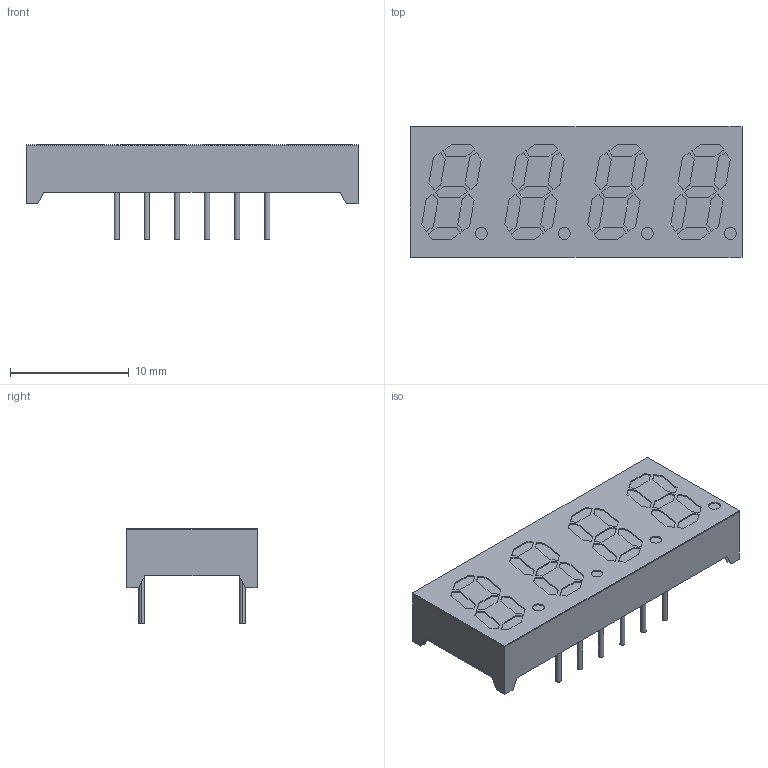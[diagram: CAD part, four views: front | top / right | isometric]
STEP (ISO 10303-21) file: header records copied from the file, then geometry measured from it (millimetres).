
FILE_DESCRIPTION(('STEP AP214'),'1');
FILE_NAME('tmp0.step','2019-03-30T16:54:07',(' '),(' '),'Spatial InterOp 3D',' ',' ');
FILE_SCHEMA(('AUTOMOTIVE_DESIGN { 1 0 10303 214 1 1 1 1 }'));
Length unit declared in the file: millimetre
Products named in the file (1): 1
Bounding box: 28 x 11 x 8 mm (x, y, z)
Volume: 967.4 mm3; surface area: 2506.1 mm2
Topology: 47 solids, 47 shells, 710 faces, 1752 edges, 1168 vertices
Faces by surface type: plane 662, cylinder 48
Entity records: 27017 total; most frequent: CARTESIAN_POINT 3677, ORIENTED_EDGE 3504, DIRECTION 3362, EDGE_CURVE 1752, LINE 1656, VECTOR 1656, VERTEX_POINT 1168, AXIS2_PLACEMENT_3D 853
